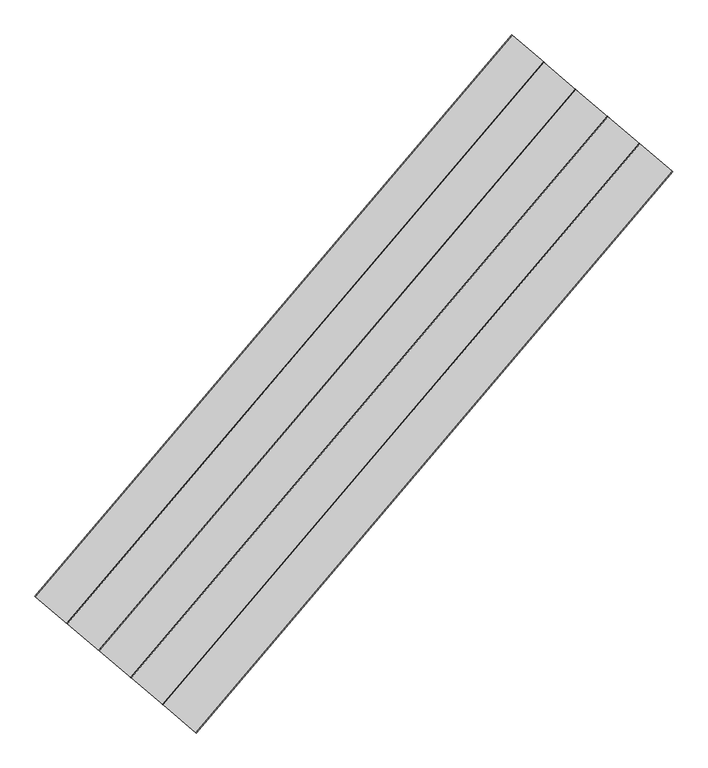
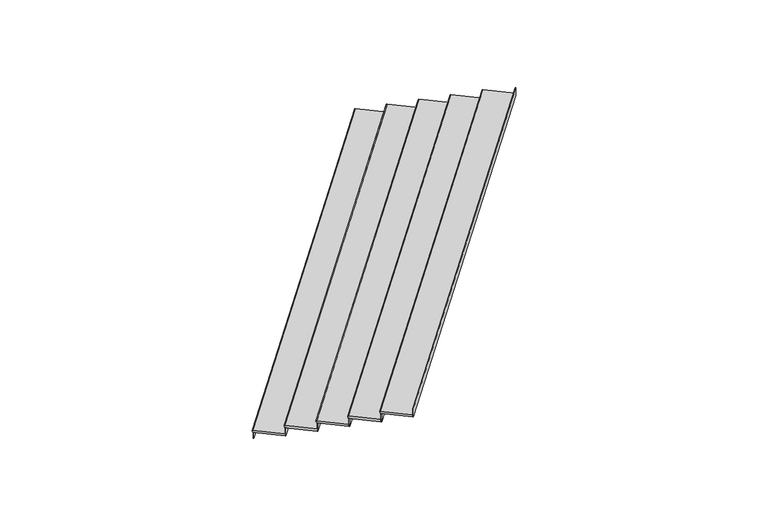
"""IFC4 building model written with IfcOpenShell, lengths in millimetres: stair flight geometry, Wood Steps with 50 mm Tread 20 mm Nosing 13 mm Riser."""

from ifc_helpers import new_model, si_unit, point, frame, frame_2d, origin, place, context, project, spatial, polyline, circle_curve, trimmed, segment, composite_curve, outline, extrude, source, transform, mapped, element, save


def stair_flight_083a62da(model_context):
    return source(origin(), model_context, "Body", "SweptSolid", [
        extrude(outline(composite_curve([segment(polyline([(0.0, -598.410772), (0.0, 0.0)]), True, "CONTINUOUS"), segment(trimmed(circle_curve(frame_2d((10.0, 0.0)), 10.0), [point((0.0, 0.0))], [point((20.0, 0.0))], False, "CARTESIAN"), True, "CONTINUOUS"), segment(polyline([(20.0, 0.0), (50.0, 0.0), (50.0, -598.410772), (0.0, -598.410772)]), True, "CONTINUOUS")], self_intersect=False)), frame((875812.6011884, 28318.4508693, 4179.2941176), z_axis=(0.6473560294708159, 0.7621877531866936, 0.0), x_axis=(0.0, 0.0, -1.0)), (0.0, 0.0, 1.0), 10348.9095119),
        extrude(outline(polyline([(875829.7504128, 28303.8853587), (875820.2230659, 28311.9773091), (882519.6520369, 36199.7893979), (882529.1793838, 36191.6974475), (875829.7504128, 28303.8853587)])), frame((0.0, 0.0, 4000.0), z_axis=(0.0, 0.0, 1.0), x_axis=(1.0, 0.0, 0.0)), (0.0, 0.0, 1.0), 129.2941176),
        extrude(outline(polyline([(876278.2298971, 27922.9740976), (876268.7025502, 27931.066048), (882968.1315212, 35818.8781368), (882977.6588681, 35810.7861864), (876278.2298971, 27922.9740976)])), frame((0.0, 0.0, 4129.2941176), z_axis=(0.0, 0.0, 1.0), x_axis=(1.0, 0.0, 0.0)), (0.0, 0.0, 1.0), 179.2941176),
        extrude(outline(composite_curve([segment(polyline([(0.0, -598.410772), (0.0, 0.0)]), True, "CONTINUOUS"), segment(trimmed(circle_curve(frame_2d((10.0, 0.0)), 10.0), [point((0.0, 0.0))], [point((20.0, 0.0))], False, "CARTESIAN"), True, "CONTINUOUS"), segment(polyline([(20.0, 0.0), (50.0, 0.0), (50.0, -598.410772), (0.0, -598.410772)]), True, "CONTINUOUS")], self_intersect=False)), frame((876261.0806727, 27937.5396083, 4358.5882353), z_axis=(0.6473560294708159, 0.7621877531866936, 0.0), x_axis=(0.0, 0.0, -1.0)), (0.0, 0.0, 1.0), 10348.9095119),
        extrude(outline(polyline([(876726.7093814, 27542.0628366), (876717.1820344, 27550.1547869), (883416.6110054, 35437.9668758), (883426.1383523, 35429.8749254), (876726.7093814, 27542.0628366)])), frame((0.0, 0.0, 4308.5882353), z_axis=(0.0, 0.0, 1.0), x_axis=(1.0, 0.0, 0.0)), (0.0, 0.0, 1.0), 179.2941176),
        extrude(outline(composite_curve([segment(polyline([(0.0, -598.410772), (0.0, 0.0)]), True, "CONTINUOUS"), segment(trimmed(circle_curve(frame_2d((10.0, 0.0)), 10.0), [point((0.0, 0.0))], [point((20.0, 0.0))], False, "CARTESIAN"), True, "CONTINUOUS"), segment(polyline([(20.0, 0.0), (50.0, 0.0), (50.0, -598.410772), (0.0, -598.410772)]), True, "CONTINUOUS")], self_intersect=False)), frame((876709.5601569, 27556.6283472, 4537.8823529), z_axis=(0.6473560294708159, 0.7621877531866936, 0.0), x_axis=(0.0, 0.0, -1.0)), (0.0, 0.0, 1.0), 10348.9095119),
        extrude(outline(polyline([(877175.1888656, 27161.1515755), (877165.6615187, 27169.2435259), (883865.0904897, 35057.0556147), (883874.6178366, 35048.9636643), (877175.1888656, 27161.1515755)])), frame((0.0, 0.0, 4487.8823529), z_axis=(0.0, 0.0, 1.0), x_axis=(1.0, 0.0, 0.0)), (0.0, 0.0, 1.0), 179.2941176),
        extrude(outline(composite_curve([segment(polyline([(0.0, -598.410772), (0.0, 0.0)]), True, "CONTINUOUS"), segment(trimmed(circle_curve(frame_2d((10.0, 0.0)), 10.0), [point((0.0, 0.0))], [point((20.0, 0.0))], False, "CARTESIAN"), True, "CONTINUOUS"), segment(polyline([(20.0, 0.0), (50.0, 0.0), (50.0, -598.410772), (0.0, -598.410772)]), True, "CONTINUOUS")], self_intersect=False)), frame((877158.0396412, 27175.7170862, 4717.1764706), z_axis=(0.6473560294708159, 0.7621877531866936, 0.0), x_axis=(0.0, 0.0, -1.0)), (0.0, 0.0, 1.0), 10348.9095119),
        extrude(outline(polyline([(877623.6683499, 26780.2403145), (877614.1410029, 26788.3322648), (884313.5699739, 34676.1443536), (884323.0973208, 34668.0524033), (877623.6683499, 26780.2403145)])), frame((0.0, 0.0, 4667.1764706), z_axis=(0.0, 0.0, 1.0), x_axis=(1.0, 0.0, 0.0)), (0.0, 0.0, 1.0), 179.2941176),
        extrude(outline(polyline([(878072.1478341, 26399.3290534), (878062.6204872, 26407.4210038), (884762.0494582, 34295.2330926), (884771.5768051, 34287.1411422), (878072.1478341, 26399.3290534)])), frame((0.0, 0.0, 4846.4705882), z_axis=(0.0, 0.0, 1.0), x_axis=(1.0, 0.0, 0.0)), (0.0, 0.0, 1.0), 179.2941176),
        extrude(outline(composite_curve([segment(polyline([(0.0, -598.410772), (0.0, 0.0)]), True, "CONTINUOUS"), segment(trimmed(circle_curve(frame_2d((10.0, 0.0)), 10.0), [point((0.0, 0.0))], [point((20.0, 0.0))], False, "CARTESIAN"), True, "CONTINUOUS"), segment(polyline([(20.0, 0.0), (50.0, 0.0), (50.0, -598.410772), (0.0, -598.410772)]), True, "CONTINUOUS")], self_intersect=False)), frame((877606.5191254, 26794.8058251, 4896.4705882), z_axis=(0.6473560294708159, 0.7621877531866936, 0.0), x_axis=(0.0, 0.0, -1.0)), (0.0, 0.0, 1.0), 10348.9095119),
    ])


if __name__ == "__main__":
    model = new_model("IFC4")
    model_context = context("Model", 3, world=origin())
    ifc_project = project(units=[si_unit("LENGTHUNIT", "METRE", prefix="MILLI")], contexts=[model_context])
    site = spatial("IfcSite", under=ifc_project)
    building = spatial("IfcBuilding", under=site)
    placement = place(None, origin())
    stair_flight_shape = stair_flight_083a62da(model_context)
    element("IfcStairFlight", 1, ObjectType="Wood Steps with 50 mm Tread 20 mm Nosing 13 mm Riser", at=placement, inside=building, context=model_context, shape_type="MappedRepresentation", body=[
        mapped(stair_flight_shape, transform((0.0, 0.0, 0.0), x_axis=(1.0, 0.0, 0.0), y_axis=(0.0, 1.0, 0.0), z_axis=(0.0, 0.0, 1.0))),
    ])
    save(model, "model.ifc")
